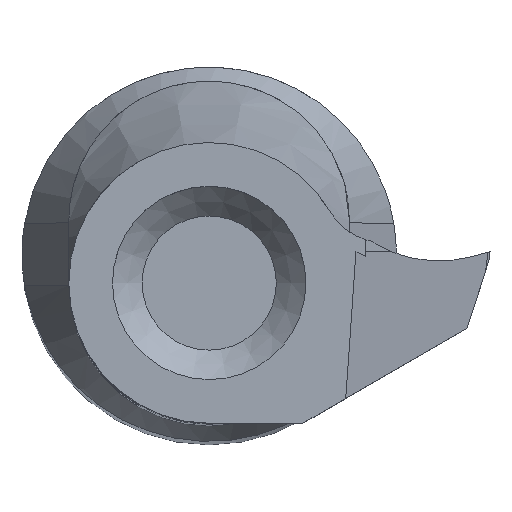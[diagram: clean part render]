
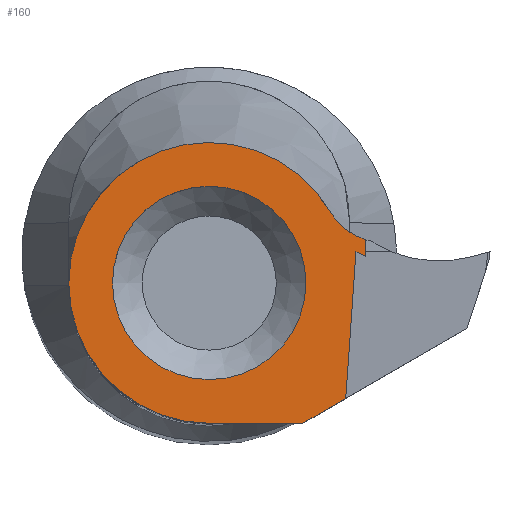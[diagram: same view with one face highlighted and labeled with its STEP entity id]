
A CAD part, top view. The second image highlights one B-rep face of the part: STEP entity #160.
In plain terms, the highlighted planar face has unit normal (0, 0, 1).
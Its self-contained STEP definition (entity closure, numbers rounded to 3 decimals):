
#68=FACE_BOUND('',#259,.T.);
#69=FACE_BOUND('',#260,.T.);
#120=PLANE('',#841);
#160=ADVANCED_FACE('',(#68,#69),#120,.F.);
#259=EDGE_LOOP('',(#511,#512,#513,#514,#515,#516,#517));
#260=EDGE_LOOP('',(#518));
#317=LINE('',#1264,#377);
#318=LINE('',#1268,#378);
#319=LINE('',#1270,#379);
#320=LINE('',#1272,#380);
#321=LINE('',#1274,#381);
#377=VECTOR('',#1001,1.);
#378=VECTOR('',#1006,1.);
#379=VECTOR('',#1007,1.);
#380=VECTOR('',#1008,1.);
#381=VECTOR('',#1009,1.);
#511=ORIENTED_EDGE('',*,*,#720,.T.);
#512=ORIENTED_EDGE('',*,*,#732,.F.);
#513=ORIENTED_EDGE('',*,*,#733,.T.);
#514=ORIENTED_EDGE('',*,*,#734,.T.);
#515=ORIENTED_EDGE('',*,*,#735,.F.);
#516=ORIENTED_EDGE('',*,*,#736,.F.);
#517=ORIENTED_EDGE('',*,*,#731,.T.);
#518=ORIENTED_EDGE('',*,*,#737,.T.);
#639=VERTEX_POINT('',#1242);
#640=VERTEX_POINT('',#1244);
#646=VERTEX_POINT('',#1261);
#648=VERTEX_POINT('',#1267);
#649=VERTEX_POINT('',#1269);
#650=VERTEX_POINT('',#1271);
#651=VERTEX_POINT('',#1273);
#652=VERTEX_POINT('',#1276);
#720=EDGE_CURVE('',#640,#639,#780,.T.);
#731=EDGE_CURVE('',#646,#640,#317,.T.);
#732=EDGE_CURVE('',#648,#639,#782,.T.);
#733=EDGE_CURVE('',#648,#649,#318,.T.);
#734=EDGE_CURVE('',#649,#650,#319,.T.);
#735=EDGE_CURVE('',#651,#650,#320,.T.);
#736=EDGE_CURVE('',#646,#651,#321,.T.);
#737=EDGE_CURVE('',#652,#652,#783,.T.);
#780=CIRCLE('',#831,2.);
#782=CIRCLE('',#839,4.5);
#783=CIRCLE('',#840,3.1);
#831=AXIS2_PLACEMENT_3D('',#1243,#981,#982);
#839=AXIS2_PLACEMENT_3D('',#1266,#1004,#1005);
#840=AXIS2_PLACEMENT_3D('',#1275,#1010,#1011);
#841=AXIS2_PLACEMENT_3D('',#1277,#1012,#1013);
#981=DIRECTION('',(0.,0.,-1.));
#982=DIRECTION('',(1.,0.,0.));
#1001=DIRECTION('',(0.,1.,0.));
#1004=DIRECTION('',(0.,0.,-1.));
#1005=DIRECTION('',(1.,0.,0.));
#1006=DIRECTION('',(1.,0.,0.));
#1007=DIRECTION('',(0.866,0.5,0.));
#1008=DIRECTION('',(-0.07,-0.998,0.));
#1009=DIRECTION('',(-0.895,0.447,0.));
#1010=DIRECTION('',(0.,0.,-1.));
#1011=DIRECTION('',(-1.,0.,0.));
#1012=DIRECTION('',(0.,0.,-1.));
#1013=DIRECTION('',(-1.,0.,0.));
#1242=CARTESIAN_POINT('',(3.877,1.285,19.072));
#1243=CARTESIAN_POINT('',(5.6,2.3,19.072));
#1244=CARTESIAN_POINT('',(5.,0.392,19.072));
#1261=CARTESIAN_POINT('',(5.,-0.147,19.072));
#1264=CARTESIAN_POINT('',(5.,-8.3,19.072));
#1266=CARTESIAN_POINT('',(0.,-1.,19.072));
#1267=CARTESIAN_POINT('',(0.,-5.5,19.072));
#1268=CARTESIAN_POINT('',(3.,-5.5,19.072));
#1269=CARTESIAN_POINT('',(3.,-5.5,19.072));
#1270=CARTESIAN_POINT('',(9.3,-1.863,19.072));
#1271=CARTESIAN_POINT('',(4.375,-4.706,19.072));
#1272=CARTESIAN_POINT('',(4.612,-1.323,19.072));
#1273=CARTESIAN_POINT('',(4.705,0.,19.072));
#1274=CARTESIAN_POINT('',(1.338,1.68,19.072));
#1275=CARTESIAN_POINT('',(0.,-1.,19.072));
#1276=CARTESIAN_POINT('',(-3.1,-1.,19.072));
#1277=CARTESIAN_POINT('',(0.,-1.,19.072));
